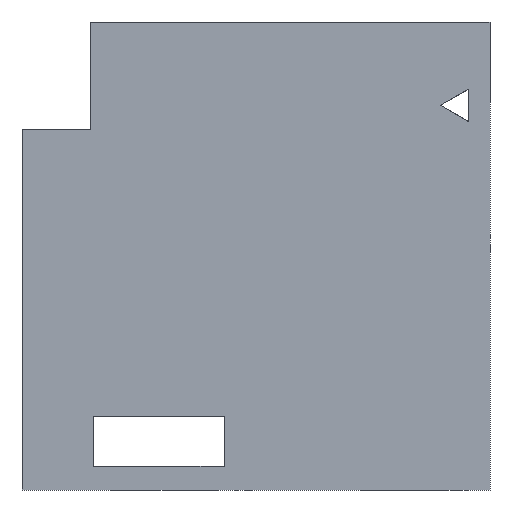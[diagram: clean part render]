
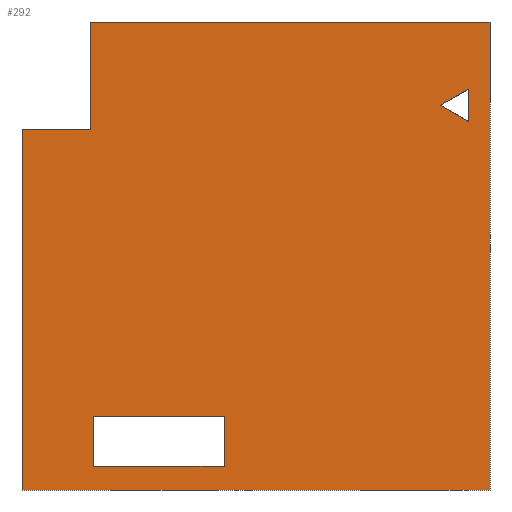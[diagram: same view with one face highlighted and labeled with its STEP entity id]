
A CAD part, front view. The second image highlights one B-rep face of the part: STEP entity #292.
In plain terms, the highlighted planar face has unit normal (0, -1, 0).
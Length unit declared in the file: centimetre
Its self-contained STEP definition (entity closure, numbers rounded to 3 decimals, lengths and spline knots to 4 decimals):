
#15 = VECTOR ( 'NONE', #746, 100. ) ;
#18 = CARTESIAN_POINT ( 'NONE',  ( 152.5656, 0., 50.7047 ) ) ;
#37 = CARTESIAN_POINT ( 'NONE',  ( 954.1754, 0., 856.7675 ) ) ;
#44 = CARTESIAN_POINT ( 'NONE',  ( 0., 0., 0. ) ) ;
#45 = VERTEX_POINT ( 'NONE', #117 ) ;
#93 = VECTOR ( 'NONE', #626, 100. ) ;
#110 = EDGE_LOOP ( 'NONE', ( #201, #666, #621, #516 ) ) ;
#117 = CARTESIAN_POINT ( 'NONE',  ( 431.9125, 0., 50.7047 ) ) ;
#119 = EDGE_CURVE ( 'NONE', #942, #524, #228, .T. ) ;
#129 = CARTESIAN_POINT ( 'NONE',  ( 145.5412, 0., 770.4987 ) ) ;
#137 = CARTESIAN_POINT ( 'NONE',  ( 431.9125, 0., 157.948 ) ) ;
#143 = CARTESIAN_POINT ( 'NONE',  ( 894.003, 0., 822.1788 ) ) ;
#147 = CARTESIAN_POINT ( 'NONE',  ( 152.5656, 0., 50.7047 ) ) ;
#170 = EDGE_CURVE ( 'NONE', #969, #45, #353, .T. ) ;
#176 = ORIENTED_EDGE ( 'NONE', *, *, #972, .F. ) ;
#189 = CARTESIAN_POINT ( 'NONE',  ( 0., 0., 1000. ) ) ;
#190 = VECTOR ( 'NONE', #645, 100. ) ;
#199 = VECTOR ( 'NONE', #1066, 100. ) ;
#201 = ORIENTED_EDGE ( 'NONE', *, *, #824, .T. ) ;
#209 = ORIENTED_EDGE ( 'NONE', *, *, #602, .T. ) ;
#210 = FACE_BOUND ( 'NONE', #409, .T. ) ;
#217 = VERTEX_POINT ( 'NONE', #129 ) ;
#228 = LINE ( 'NONE', #256, #1146 ) ;
#254 = LINE ( 'NONE', #510, #93 ) ;
#255 = VERTEX_POINT ( 'NONE', #854 ) ;
#256 = CARTESIAN_POINT ( 'NONE',  ( 894.003, 0., 822.1788 ) ) ;
#290 = CARTESIAN_POINT ( 'NONE',  ( 1000., 0., 1000. ) ) ;
#292 = ADVANCED_FACE ( 'NONE', ( #317, #210, #752 ), #1036, .F. ) ;
#298 = DIRECTION ( 'NONE',  ( 0., 0., -1. ) ) ;
#317 = FACE_BOUND ( 'NONE', #110, .T. ) ;
#336 = LINE ( 'NONE', #708, #823 ) ;
#343 = LINE ( 'NONE', #715, #1141 ) ;
#345 = EDGE_CURVE ( 'NONE', #255, #1016, #1003, .T. ) ;
#353 = LINE ( 'NONE', #519, #199 ) ;
#383 = CARTESIAN_POINT ( 'NONE',  ( 152.5656, 0., 50.7047 ) ) ;
#400 = EDGE_CURVE ( 'NONE', #683, #1016, #734, .T. ) ;
#406 = VECTOR ( 'NONE', #644, 100. ) ;
#409 = EDGE_LOOP ( 'NONE', ( #659, #549, #881 ) ) ;
#410 = DIRECTION ( 'NONE',  ( 0., 0., 1. ) ) ;
#422 = CARTESIAN_POINT ( 'NONE',  ( 0., 0., 1000. ) ) ;
#447 = EDGE_CURVE ( 'NONE', #524, #614, #343, .T. ) ;
#455 = ORIENTED_EDGE ( 'NONE', *, *, #785, .F. ) ;
#458 = VECTOR ( 'NONE', #1096, 100. ) ;
#470 = LINE ( 'NONE', #730, #534 ) ;
#491 = VERTEX_POINT ( 'NONE', #984 ) ;
#498 = DIRECTION ( 'NONE',  ( 0., 1., 0. ) ) ;
#499 = CARTESIAN_POINT ( 'NONE',  ( 145.5412, 0., 770.4987 ) ) ;
#500 = AXIS2_PLACEMENT_3D ( 'NONE', #948, #498, #410 ) ;
#510 = CARTESIAN_POINT ( 'NONE',  ( 152.5656, 0., 157.948 ) ) ;
#516 = ORIENTED_EDGE ( 'NONE', *, *, #170, .T. ) ;
#519 = CARTESIAN_POINT ( 'NONE',  ( 431.9125, 0., 50.7047 ) ) ;
#524 = VERTEX_POINT ( 'NONE', #885 ) ;
#534 = VECTOR ( 'NONE', #1090, 100. ) ;
#540 = EDGE_CURVE ( 'NONE', #614, #942, #336, .T. ) ;
#549 = ORIENTED_EDGE ( 'NONE', *, *, #540, .F. ) ;
#556 = CARTESIAN_POINT ( 'NONE',  ( 0., 0., 0. ) ) ;
#558 = LINE ( 'NONE', #18, #190 ) ;
#602 = EDGE_CURVE ( 'NONE', #766, #683, #780, .T. ) ;
#603 = LINE ( 'NONE', #499, #949 ) ;
#611 = DIRECTION ( 'NONE',  ( 0.864, 0., -0.503 ) ) ;
#614 = VERTEX_POINT ( 'NONE', #37 ) ;
#621 = ORIENTED_EDGE ( 'NONE', *, *, #1117, .T. ) ;
#626 = DIRECTION ( 'NONE',  ( 1., 0., 0. ) ) ;
#644 = DIRECTION ( 'NONE',  ( 0., 0., -1. ) ) ;
#645 = DIRECTION ( 'NONE',  ( 0., 0., 1. ) ) ;
#659 = ORIENTED_EDGE ( 'NONE', *, *, #119, .F. ) ;
#662 = VECTOR ( 'NONE', #913, 100. ) ;
#666 = ORIENTED_EDGE ( 'NONE', *, *, #733, .T. ) ;
#683 = VERTEX_POINT ( 'NONE', #44 ) ;
#694 = DIRECTION ( 'NONE',  ( -0.867, 0., -0.498 ) ) ;
#708 = CARTESIAN_POINT ( 'NONE',  ( 954.1754, 0., 856.7675 ) ) ;
#715 = CARTESIAN_POINT ( 'NONE',  ( 954.1754, 0., 787.1346 ) ) ;
#727 = VERTEX_POINT ( 'NONE', #995 ) ;
#730 = CARTESIAN_POINT ( 'NONE',  ( 0., 0., 770.4987 ) ) ;
#731 = EDGE_CURVE ( 'NONE', #727, #255, #1004, .T. ) ;
#733 = EDGE_CURVE ( 'NONE', #1111, #491, #558, .T. ) ;
#734 = LINE ( 'NONE', #556, #458 ) ;
#746 = DIRECTION ( 'NONE',  ( -1., 0., 0. ) ) ;
#752 = FACE_OUTER_BOUND ( 'NONE', #1091, .T. ) ;
#766 = VERTEX_POINT ( 'NONE', #832 ) ;
#767 = VECTOR ( 'NONE', #298, 100. ) ;
#780 = LINE ( 'NONE', #422, #767 ) ;
#785 = EDGE_CURVE ( 'NONE', #766, #217, #470, .T. ) ;
#786 = DIRECTION ( 'NONE',  ( 0., 0., 1. ) ) ;
#801 = ORIENTED_EDGE ( 'NONE', *, *, #345, .F. ) ;
#815 = LINE ( 'NONE', #383, #15 ) ;
#823 = VECTOR ( 'NONE', #694, 100. ) ;
#824 = EDGE_CURVE ( 'NONE', #45, #1111, #815, .T. ) ;
#832 = CARTESIAN_POINT ( 'NONE',  ( 0., 0., 770.4987 ) ) ;
#840 = ORIENTED_EDGE ( 'NONE', *, *, #731, .F. ) ;
#854 = CARTESIAN_POINT ( 'NONE',  ( 1000., 0., 1000. ) ) ;
#881 = ORIENTED_EDGE ( 'NONE', *, *, #447, .F. ) ;
#885 = CARTESIAN_POINT ( 'NONE',  ( 954.1754, 0., 787.1346 ) ) ;
#913 = DIRECTION ( 'NONE',  ( 1., 0., 0. ) ) ;
#942 = VERTEX_POINT ( 'NONE', #143 ) ;
#948 = CARTESIAN_POINT ( 'NONE',  ( 0., 0., 1000. ) ) ;
#949 = VECTOR ( 'NONE', #1130, 100. ) ;
#969 = VERTEX_POINT ( 'NONE', #137 ) ;
#972 = EDGE_CURVE ( 'NONE', #217, #727, #603, .T. ) ;
#984 = CARTESIAN_POINT ( 'NONE',  ( 152.5656, 0., 157.948 ) ) ;
#991 = ORIENTED_EDGE ( 'NONE', *, *, #400, .T. ) ;
#995 = CARTESIAN_POINT ( 'NONE',  ( 145.5412, 0., 1000. ) ) ;
#1003 = LINE ( 'NONE', #290, #406 ) ;
#1004 = LINE ( 'NONE', #189, #662 ) ;
#1016 = VERTEX_POINT ( 'NONE', #1115 ) ;
#1036 = PLANE ( 'NONE',  #500 ) ;
#1066 = DIRECTION ( 'NONE',  ( 0., 0., -1. ) ) ;
#1090 = DIRECTION ( 'NONE',  ( 1., 0., 0. ) ) ;
#1091 = EDGE_LOOP ( 'NONE', ( #840, #176, #455, #209, #991, #801 ) ) ;
#1096 = DIRECTION ( 'NONE',  ( 1., 0., 0. ) ) ;
#1111 = VERTEX_POINT ( 'NONE', #147 ) ;
#1115 = CARTESIAN_POINT ( 'NONE',  ( 1000., 0., 0. ) ) ;
#1117 = EDGE_CURVE ( 'NONE', #491, #969, #254, .T. ) ;
#1130 = DIRECTION ( 'NONE',  ( 0., 0., 1. ) ) ;
#1141 = VECTOR ( 'NONE', #786, 100. ) ;
#1146 = VECTOR ( 'NONE', #611, 100. ) ;
